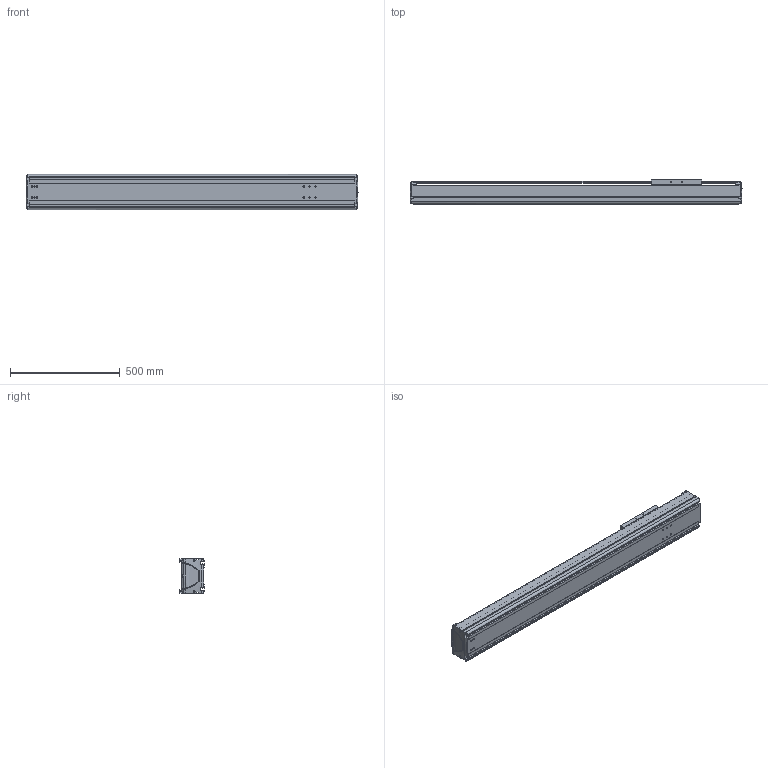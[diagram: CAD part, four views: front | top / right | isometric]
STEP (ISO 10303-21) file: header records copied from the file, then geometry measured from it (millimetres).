
FILE_DESCRIPTION((''),'2;1');
FILE_NAME('BE50G-ST-L_B-A5_IGS_PRT','2017-06-18T',(' '),(''),'PRO/ENGINEER BY PARAMETRIC TECHNOLOGY CORPORATION, 2015030','PRO/ENGINEER BY PARAMETRIC TECHNOLOGY CORPORATION, 2015030','');
FILE_SCHEMA(('CONFIG_CONTROL_DESIGN'));
Length unit declared in the file: millimetre
Products named in the file (1): BE50G-ST-L_B-A5_IGS_PRT
Bounding box: 1514.98 x 110 x 160 mm (x, y, z)
Volume: 6770737 mm3; surface area: 2307872.5 mm2
Topology: 2 solids, 95 shells, 1704 faces, 4550 edges, 2915 vertices
Faces by surface type: cylinder 758, plane 633, bspline 102, torus 87, cone 84, sphere 40
Entity records: 58817 total; most frequent: CARTESIAN_POINT 16900, ORIENTED_EDGE 8652, DIRECTION 8548, EDGE_CURVE 4512, AXIS2_PLACEMENT_3D 3200, VERTEX_POINT 2907, VECTOR 2148, LINE 2148
